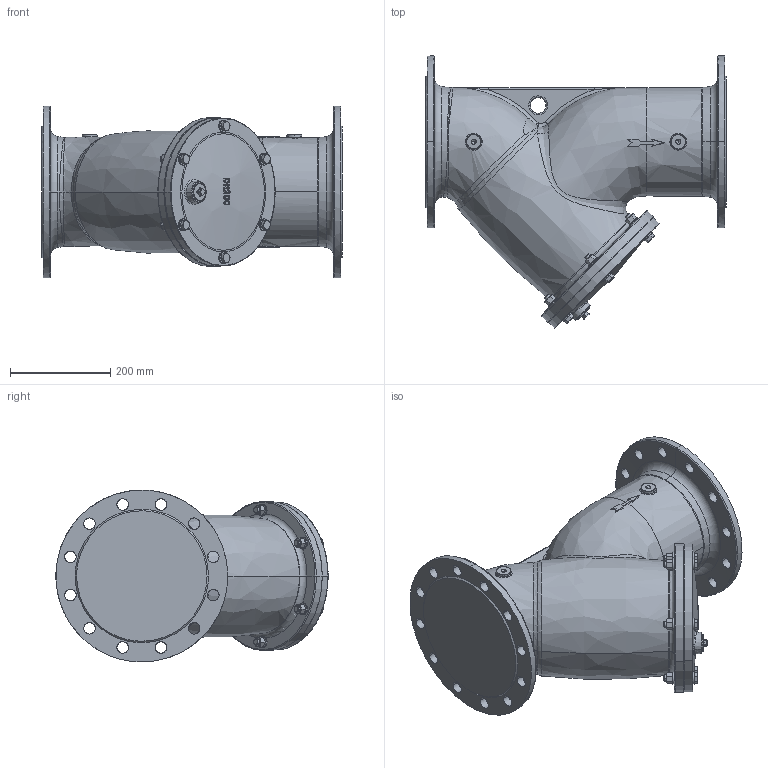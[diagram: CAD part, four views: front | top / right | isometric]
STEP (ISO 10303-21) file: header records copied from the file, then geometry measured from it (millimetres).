
FILE_DESCRIPTION (( 'STEP AP203' ), '1' );
FILE_NAME ('11.000C DN200.STEP', '2022-09-05T11:54:08', ( '' ), ( '' ), 'SwSTEP 2.0', 'SolidWorks 2017', '' );
FILE_SCHEMA (( 'CONFIG_CONTROL_DESIGN' ));
Length unit declared in the file: millimetre
Products named in the file (1): 11.000C DN200
Bounding box: 600 x 542.79 x 342.72 mm (x, y, z)
Volume: 34264561.4 mm3; surface area: 1272444.1 mm2
Topology: 9 solids, 15 shells, 669 faces, 1659 edges, 1063 vertices
Faces by surface type: plane 205, cylinder 198, bspline 122, cone 116, torus 28
Entity records: 67565 total; most frequent: CARTESIAN_POINT 52865, ORIENTED_EDGE 3302, DIRECTION 2580, EDGE_CURVE 1651, AXIS2_PLACEMENT_3D 1070, VERTEX_POINT 1063, EDGE_LOOP 796, ADVANCED_FACE 669
